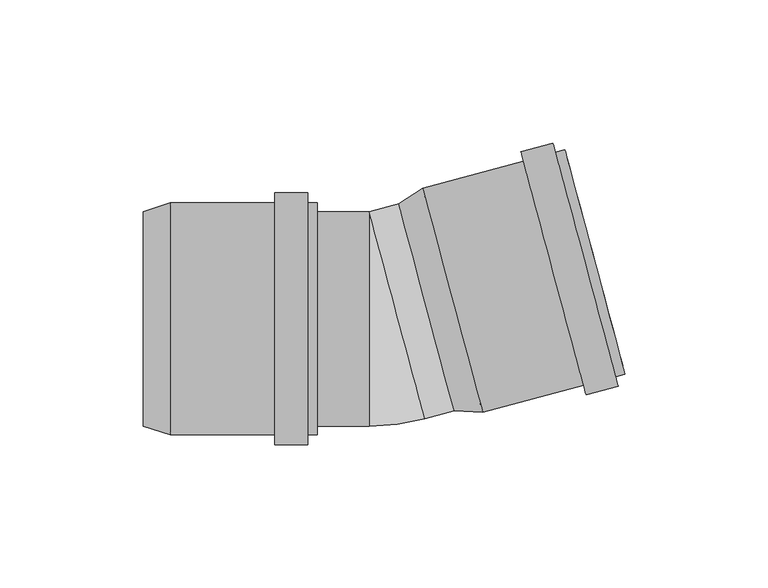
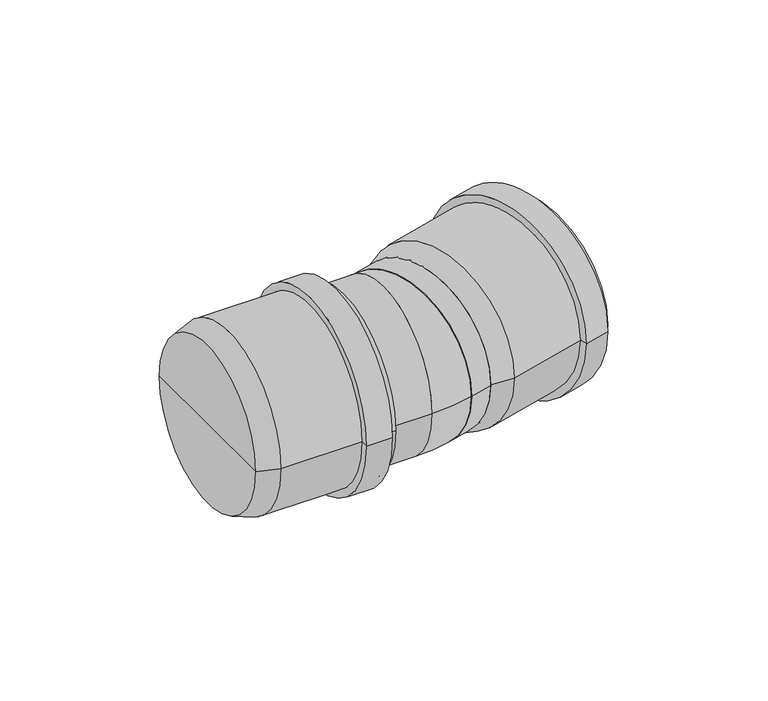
"""IFC4 building model written with IfcOpenShell, lengths in millimetres: pipe fitting geometry, pf_HTB : pf_HTB."""

from ifc_helpers import new_model, si_unit, point, frame, origin, origin_2d, place, context, project, spatial, polyline, circle_curve, ellipse_curve, trimmed, segment, composite_curve, outline, extrude, source, transform, mapped, element, save
from ifc_brep_helpers import plane_surface, cylinder_surface, revolved_surface, advanced_brep


def pipe_fitting_1962d81d(model_context):
    return source(origin(), model_context, "Body", "SolidModel", [
        advanced_brep(
        [(24.7741571, -32.1846414, 0.0), (5.3627287, 40.2597956, 0.0), (13.736685, 45.7129466, 0.0), (34.7527915, -32.7202305, 0.0), (15.0684429, 4.0375771, 0.0), (84.4979715, -19.3910497, 0.0), (63.4818651, 59.0421274, 0.0), (64.2842041, 56.0477573, 0.0), (83.6956325, -16.3966796, 0.0), (81.2138237, -20.2710344, 0.0), (60.1977173, 58.1621426, 0.0), (82.0938085, -23.5551823, 0.0), (59.3177325, 61.4462905, 0.0), (70.8890689, -26.5574832, 0.0), (48.1129929, 58.4439895, 0.0), (70.0090841, -23.2733354, 0.0), (48.9929777, 55.1598417, 0.0), (33.9504524, -29.7258605, 0.0), (14.539024, 42.7185765, 0.0), (24.2447382, 6.496358, 0.0)],
        [
            (0, 1, circle_curve(frame((15.0684429, 4.0375771, 0.0), z_axis=(0.9659258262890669, 0.25881904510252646, 0.0), x_axis=(-0.2588190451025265, 0.9659258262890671, 0.0)), 37.5)),
            (1, 2),
            (2, 3, circle_curve(frame((24.2447382, 6.496358, 0.0), z_axis=(-0.9659258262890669, -0.25881904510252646, 0.0), x_axis=(-0.2588190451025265, 0.9659258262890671, 0.0)), 40.6)),
            (3, 0),
            (1, 0, circle_curve(frame((15.0684429, 4.0375771, 0.0), z_axis=(0.9659258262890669, 0.25881904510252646, 0.0), x_axis=(-0.2588190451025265, 0.9659258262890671, 0.0)), 37.5)),
            (3, 2, circle_curve(frame((24.2447382, 6.496358, 0.0), z_axis=(-0.9659258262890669, -0.25881904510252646, 0.0), x_axis=(-0.2588190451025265, 0.9659258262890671, 0.0)), 40.6)),
            (4, 1),
            (0, 4),
            (5, 6, circle_curve(frame((73.9899183, 19.8255389, 0.0), z_axis=(0.9659258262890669, 0.25881904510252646, 0.0), x_axis=(-0.2588190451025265, 0.9659258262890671, 0.0)), 40.6)),
            (6, 7),
            (7, 8, circle_curve(frame((73.9899183, 19.8255389, 0.0), z_axis=(-0.9659258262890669, -0.25881904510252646, 0.0), x_axis=(-0.2588190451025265, 0.9659258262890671, 0.0)), 37.5)),
            (8, 5),
            (6, 5, circle_curve(frame((73.9899183, 19.8255389, 0.0), z_axis=(0.9659258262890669, 0.25881904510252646, 0.0), x_axis=(-0.2588190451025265, 0.9659258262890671, 0.0)), 40.6)),
            (8, 7, circle_curve(frame((73.9899183, 19.8255389, 0.0), z_axis=(-0.9659258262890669, -0.25881904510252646, 0.0), x_axis=(-0.2588190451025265, 0.9659258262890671, 0.0)), 37.5)),
            (9, 10, circle_curve(frame((70.7057705, 18.9455541, 0.0), z_axis=(0.9659258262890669, 0.25881904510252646, 0.0), x_axis=(-0.2588190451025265, 0.9659258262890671, 0.0)), 40.6)),
            (10, 6),
            (5, 9),
            (10, 9, circle_curve(frame((70.7057705, 18.9455541, 0.0), z_axis=(0.9659258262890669, 0.25881904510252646, 0.0), x_axis=(-0.2588190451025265, 0.9659258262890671, 0.0)), 40.6)),
            (11, 12, circle_curve(frame((70.7057705, 18.9455541, 0.0), z_axis=(0.9659258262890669, 0.25881904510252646, 0.0), x_axis=(-0.2588190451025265, 0.9659258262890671, 0.0)), 44.0)),
            (12, 10),
            (9, 11),
            (12, 11, circle_curve(frame((70.7057705, 18.9455541, 0.0), z_axis=(0.9659258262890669, 0.25881904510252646, 0.0), x_axis=(-0.2588190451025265, 0.9659258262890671, 0.0)), 44.0)),
            (13, 14, circle_curve(frame((59.5010309, 15.9432532, 0.0), z_axis=(0.9659258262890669, 0.25881904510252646, 0.0), x_axis=(-0.2588190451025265, 0.9659258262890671, 0.0)), 44.0)),
            (14, 12),
            (11, 13),
            (14, 13, circle_curve(frame((59.5010309, 15.9432532, 0.0), z_axis=(0.9659258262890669, 0.25881904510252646, 0.0), x_axis=(-0.2588190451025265, 0.9659258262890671, 0.0)), 44.0)),
            (15, 16, circle_curve(frame((59.5010309, 15.9432532, 0.0), z_axis=(0.9659258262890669, 0.25881904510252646, 0.0), x_axis=(-0.2588190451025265, 0.9659258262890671, 0.0)), 40.6)),
            (16, 14),
            (13, 15),
            (16, 15, circle_curve(frame((59.5010309, 15.9432532, 0.0), z_axis=(0.9659258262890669, 0.25881904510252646, 0.0), x_axis=(-0.2588190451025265, 0.9659258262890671, 0.0)), 40.6)),
            (2, 16),
            (15, 3),
            (17, 18, circle_curve(frame((24.2447382, 6.496358, 0.0), z_axis=(0.9659258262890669, 0.25881904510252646, 0.0), x_axis=(-0.2588190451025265, 0.9659258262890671, 0.0)), 37.5)),
            (18, 19),
            (19, 17),
            (18, 17, circle_curve(frame((24.2447382, 6.496358, 0.0), z_axis=(0.9659258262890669, 0.25881904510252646, 0.0), x_axis=(-0.2588190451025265, 0.9659258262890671, 0.0)), 37.5)),
            (7, 18),
            (17, 8),
        ],
        [
            revolved_surface(polyline([(13.736685, 45.7129466, 0.0), (5.3627287, 40.2597956, 0.0)]), (15.0684429, 4.0375771, 0.0), (-0.9659258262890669, -0.25881904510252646, 0.0)),
            plane_surface(frame((15.0684429, 4.0375771, 0.0), z_axis=(-0.9659258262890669, -0.25881904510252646, 0.0), x_axis=(-0.25881904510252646, 0.9659258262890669, 0.0))),
            plane_surface(frame((73.9899183, 19.8255389, 0.0), z_axis=(0.9659258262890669, 0.25881904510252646, 0.0), x_axis=(-0.25881904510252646, 0.9659258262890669, 0.0))),
            cylinder_surface(frame((15.0684429, 4.0375771, 0.0), z_axis=(-0.9659258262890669, -0.25881904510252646, 0.0), x_axis=(-0.2588190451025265, 0.9659258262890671, 0.0)), 40.6),
            plane_surface(frame((70.7057705, 18.9455541, 0.0), z_axis=(0.9659258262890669, 0.25881904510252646, 0.0), x_axis=(-0.25881904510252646, 0.9659258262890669, 0.0))),
            cylinder_surface(frame((15.0684429, 4.0375771, 0.0), z_axis=(-0.9659258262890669, -0.25881904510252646, 0.0), x_axis=(-0.2588190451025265, 0.9659258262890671, 0.0)), 44.0),
            plane_surface(frame((59.5010309, 15.9432532, 0.0), z_axis=(-0.9659258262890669, -0.25881904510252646, 0.0), x_axis=(-0.25881904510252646, 0.9659258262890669, 0.0))),
            plane_surface(frame((24.2447382, 6.496358, 0.0), z_axis=(0.9659258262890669, 0.25881904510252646, 0.0), x_axis=(-0.25881904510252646, 0.9659258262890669, 0.0))),
            revolved_surface(polyline([(14.539024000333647, 42.718576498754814, 0.0), (64.28420412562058, 56.04775734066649, 0.0)]), (15.0684429, 4.0375771, 0.0), (-0.9659258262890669, -0.25881904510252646, 0.0)),
        ],
        [
            (0, [[1, 2, 3, 4]]),
            (0, [[5, -4, 6, -2]]),
            (1, [[7, -1, 8]]),
            (1, [[-8, -5, -7]]),
            (2, [[9, 10, 11, 12]]),
            (2, [[13, -12, 14, -10]]),
            (3, [[15, 16, -9, 17]]),
            (3, [[18, -17, -13, -16]]),
            (4, [[19, 20, -15, 21]]),
            (4, [[22, -21, -18, -20]]),
            (5, [[23, 24, -19, 25]]),
            (5, [[26, -25, -22, -24]]),
            (6, [[27, 28, -23, 29]]),
            (6, [[30, -29, -26, -28]]),
            (3, [[-3, 31, -27, 32]]),
            (3, [[-6, -32, -30, -31]]),
            (7, [[33, 34, 35]]),
            (7, [[36, -35, -34]]),
            (8, [[-11, 37, -33, 38]]),
            (8, [[-14, -38, -36, -37]]),
        ],
    ),
        advanced_brep(
        [(-84.0, -37.5, 0.0), (-84.0, 37.5, 0.0), (-74.5, 40.6, 0.0), (-74.5, -40.6, 0.0), (-84.0, 0.0, 0.0), (-23.0, -40.6, 0.0), (-23.0, 40.6, 0.0), (-23.0, 37.5, 0.0), (-23.0, -37.5, 0.0), (-26.4, -40.6, 0.0), (-26.4, 40.6, 0.0), (-26.4, -44.0, 0.0), (-26.4, 44.0, 0.0), (-38.0, -44.0, 0.0), (-38.0, 44.0, 0.0), (-38.0, -40.6, 0.0), (-38.0, 40.6, 0.0), (-74.5, -37.5, 0.0), (-74.5, 37.5, 0.0), (-74.5, 0.0, 0.0)],
        [
            (0, 1, circle_curve(frame((-84.0, 0.0, 0.0), z_axis=(1.0, 0.0, 0.0), x_axis=(0.0, 1.0, 0.0)), 37.5)),
            (1, 2),
            (2, 3, circle_curve(frame((-74.5, 0.0, 0.0), z_axis=(-1.0, 0.0, 0.0), x_axis=(0.0, 1.0, 0.0)), 40.6)),
            (3, 0),
            (1, 0, circle_curve(frame((-84.0, 0.0, 0.0), z_axis=(1.0, 0.0, 0.0), x_axis=(0.0, 1.0, 0.0)), 37.5)),
            (3, 2, circle_curve(frame((-74.5, 0.0, 0.0), z_axis=(-1.0, 0.0, 0.0), x_axis=(0.0, 1.0, 0.0)), 40.6)),
            (4, 1),
            (0, 4),
            (5, 6, circle_curve(frame((-23.0, 0.0, 0.0), z_axis=(1.0, 0.0, 0.0), x_axis=(0.0, 1.0, 0.0)), 40.6)),
            (6, 7),
            (7, 8, circle_curve(frame((-23.0, 0.0, 0.0), z_axis=(-1.0, 0.0, 0.0), x_axis=(0.0, 1.0, 0.0)), 37.5)),
            (8, 5),
            (6, 5, circle_curve(frame((-23.0, 0.0, 0.0), z_axis=(1.0, 0.0, 0.0), x_axis=(0.0, 1.0, 0.0)), 40.6)),
            (8, 7, circle_curve(frame((-23.0, 0.0, 0.0), z_axis=(-1.0, 0.0, 0.0), x_axis=(0.0, 1.0, 0.0)), 37.5)),
            (9, 10, circle_curve(frame((-26.4, 0.0, 0.0), z_axis=(1.0, 0.0, 0.0), x_axis=(0.0, 1.0, 0.0)), 40.6)),
            (10, 6),
            (5, 9),
            (10, 9, circle_curve(frame((-26.4, 0.0, 0.0), z_axis=(1.0, 0.0, 0.0), x_axis=(0.0, 1.0, 0.0)), 40.6)),
            (11, 12, circle_curve(frame((-26.4, 0.0, 0.0), z_axis=(1.0, 0.0, 0.0), x_axis=(0.0, 1.0, 0.0)), 44.0)),
            (12, 10),
            (9, 11),
            (12, 11, circle_curve(frame((-26.4, 0.0, 0.0), z_axis=(1.0, 0.0, 0.0), x_axis=(0.0, 1.0, 0.0)), 44.0)),
            (13, 14, circle_curve(frame((-38.0, 0.0, 0.0), z_axis=(1.0, 0.0, 0.0), x_axis=(0.0, 1.0, 0.0)), 44.0)),
            (14, 12),
            (11, 13),
            (14, 13, circle_curve(frame((-38.0, 0.0, 0.0), z_axis=(1.0, 0.0, 0.0), x_axis=(0.0, 1.0, 0.0)), 44.0)),
            (15, 16, circle_curve(frame((-38.0, 0.0, 0.0), z_axis=(1.0, 0.0, 0.0), x_axis=(0.0, 1.0, 0.0)), 40.6)),
            (16, 14),
            (13, 15),
            (16, 15, circle_curve(frame((-38.0, 0.0, 0.0), z_axis=(1.0, 0.0, 0.0), x_axis=(0.0, 1.0, 0.0)), 40.6)),
            (2, 16),
            (15, 3),
            (17, 18, circle_curve(frame((-74.5, 0.0, 0.0), z_axis=(1.0, 0.0, 0.0), x_axis=(0.0, 1.0, 0.0)), 37.5)),
            (18, 19),
            (19, 17),
            (18, 17, circle_curve(frame((-74.5, 0.0, 0.0), z_axis=(1.0, 0.0, 0.0), x_axis=(0.0, 1.0, 0.0)), 37.5)),
            (7, 18),
            (17, 8),
        ],
        [
            revolved_surface(polyline([(-74.5, 40.6, 0.0), (-84.0, 37.5, 0.0)]), (-84.0, 0.0, 0.0), (-1.0, 0.0, 0.0)),
            plane_surface(frame((-84.0, 0.0, 0.0), z_axis=(-1.0, 0.0, 0.0), x_axis=(0.0, 1.0, 0.0))),
            plane_surface(frame((-23.0, 0.0, 0.0), z_axis=(1.0, 0.0, 0.0), x_axis=(0.0, 1.0, 0.0))),
            cylinder_surface(frame((-84.0, 0.0, 0.0), z_axis=(-1.0, 0.0, 0.0), x_axis=(0.0, 1.0, 0.0)), 40.6),
            plane_surface(frame((-26.4, 0.0, 0.0), z_axis=(1.0, 0.0, 0.0), x_axis=(0.0, 1.0, 0.0))),
            cylinder_surface(frame((-84.0, 0.0, 0.0), z_axis=(-1.0, 0.0, 0.0), x_axis=(0.0, 1.0, 0.0)), 44.0),
            plane_surface(frame((-38.0, 0.0, 0.0), z_axis=(-1.0, 0.0, 0.0), x_axis=(0.0, 1.0, 0.0))),
            plane_surface(frame((-74.5, 0.0, 0.0), z_axis=(1.0, 0.0, 0.0), x_axis=(0.0, 1.0, 0.0))),
            revolved_surface(polyline([(-74.5, 37.5, 0.0), (-23.0, 37.5, 0.0)]), (-84.0, 0.0, 0.0), (-1.0, 0.0, 0.0)),
        ],
        [
            (0, [[1, 2, 3, 4]]),
            (0, [[5, -4, 6, -2]]),
            (1, [[7, -1, 8]]),
            (1, [[-8, -5, -7]]),
            (2, [[9, 10, 11, 12]]),
            (2, [[13, -12, 14, -10]]),
            (3, [[15, 16, -9, 17]]),
            (3, [[18, -17, -13, -16]]),
            (4, [[19, 20, -15, 21]]),
            (4, [[22, -21, -18, -20]]),
            (5, [[23, 24, -19, 25]]),
            (5, [[26, -25, -22, -24]]),
            (6, [[27, 28, -23, 29]]),
            (6, [[30, -29, -26, -28]]),
            (3, [[-3, 31, -27, 32]]),
            (3, [[-6, -32, -30, -31]]),
            (7, [[33, 34, 35]]),
            (7, [[36, -35, -34]]),
            (8, [[-11, 37, -33, 38]]),
            (8, [[-14, -38, -36, -37]]),
        ],
    ),
        extrude(outline(composite_curve([segment(trimmed(circle_curve(origin_2d(), 37.5), [point((0.0, -37.5))], [point((0.0, 37.5))], False, "CARTESIAN"), True, "CONTINUOUS"), segment(trimmed(circle_curve(origin_2d(), 37.5), [point((0.0, 37.5))], [point((0.0, -37.5))], False, "CARTESIAN"), True, "CONTINUOUS")], self_intersect=False)), frame((4.7687455, 1.2777815, 0.0), z_axis=(0.9659258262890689, 0.25881904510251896, 0.0), x_axis=(0.0, 0.0, 1.0)), (0.0, 0.0, 1.0), 20.1630313),
        extrude(outline(composite_curve([segment(trimmed(circle_curve(origin_2d(), 37.5), [point((-37.5, 0.0))], [point((37.5, 0.0))], False, "CARTESIAN"), True, "CONTINUOUS"), segment(trimmed(circle_curve(origin_2d(), 37.5), [point((37.5, 0.0))], [point((-37.5, 0.0))], False, "CARTESIAN"), True, "CONTINUOUS")], self_intersect=False)), frame((-74.5, 0.0, 0.0), z_axis=(1.0, 0.0, 0.0), x_axis=(0.0, 1.0, 0.0)), (0.0, 0.0, 1.0), 69.5630313),
        advanced_brep(
        [(-4.9369687, -37.5, 0.0), (-4.9369687, 37.5, 0.0), (14.4744597, -34.944437, 0.0)],
        [
            (0, 1, circle_curve(frame((-4.9369687, 0.0, 0.0), z_axis=(-1.0, 0.0, 0.0), x_axis=(0.0, 1.0, 0.0)), 37.5)),
            (1, 0, circle_curve(frame((-4.9369687, 0.0, 0.0), z_axis=(-1.0, 0.0, 0.0), x_axis=(0.0, 1.0, 0.0)), 37.5)),
            (2, 1, circle_curve(frame((4.7687455, 1.2777815, 0.0), z_axis=(0.9659258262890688, 0.25881904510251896, 0.0), x_axis=(-0.25881904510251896, 0.9659258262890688, 0.0)), 37.5)),
            (1, 2, circle_curve(frame((4.7687455, 1.2777815, 0.0), z_axis=(0.9659258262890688, 0.25881904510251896, 0.0), x_axis=(-0.25881904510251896, 0.9659258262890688, 0.0)), 37.5)),
            (2, 0, circle_curve(frame((-4.9369687, 37.5, 0.0), z_axis=(0.0, 0.0, -1.0), x_axis=(0.0, -1.0, 0.0)), 75.0)),
        ],
        [
            plane_surface(frame((-4.9369687, 37.5, -14.8), z_axis=(-1.0, 0.0, 0.0), x_axis=(0.0, -1.0, 0.0))),
            plane_surface(frame((-4.9369687, 37.5, -14.8), z_axis=(0.9659258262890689, 0.258819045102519, 0.0), x_axis=(0.258819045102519, -0.9659258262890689, 0.0))),
            revolved_surface(trimmed(ellipse_curve(frame((-4.9369687, 0.0, 0.0), z_axis=(1.0, 0.0, 0.0), x_axis=(0.0, 1.0, 0.0)), 37.5, 37.5), [point((-4.9369687, -37.5, 0.0))], [point((-4.9369687, 37.5, 0.0))], True, "CARTESIAN"), (-4.9369687, 37.5, -14.8), (0.0, 0.0, -1.0)),
            revolved_surface(trimmed(ellipse_curve(frame((-4.9369687, 0.0, 0.0), z_axis=(1.0, 0.0, 0.0), x_axis=(0.0, 1.0, 0.0)), 37.5, 37.5), [point((-4.9369687, 37.5, 0.0))], [point((-4.9369687, -37.5, 0.0))], True, "CARTESIAN"), (-4.9369687, 37.5, -14.8), (0.0, 0.0, -1.0)),
        ],
        [
            (0, [[1, 2]]),
            (1, [[3, 4]]),
            (2, [[5, -2, -3]]),
            (3, [[-1, -5, -4]]),
        ],
    ),
    ])


if __name__ == "__main__":
    model = new_model("IFC4")
    model_context = context("Model", 3, world=origin())
    ifc_project = project(units=[si_unit("LENGTHUNIT", "METRE", prefix="MILLI")], contexts=[model_context])
    site = spatial("IfcSite", under=ifc_project)
    building = spatial("IfcBuilding", under=site)
    placement = place(None, origin())
    pipe_fitting_shape = pipe_fitting_1962d81d(model_context)
    element("IfcPipeFitting", 1, ObjectType="pf_HTB : pf_HTB", at=placement, inside=building, context=model_context, shape_type="MappedRepresentation", body=[
        mapped(pipe_fitting_shape, transform((0.0, 0.0, 0.0), x_axis=(1.0, 0.0, 0.0), y_axis=(0.0, 1.0, 0.0), z_axis=(0.0, 0.0, 1.0))),
    ])
    save(model, "model.ifc")
